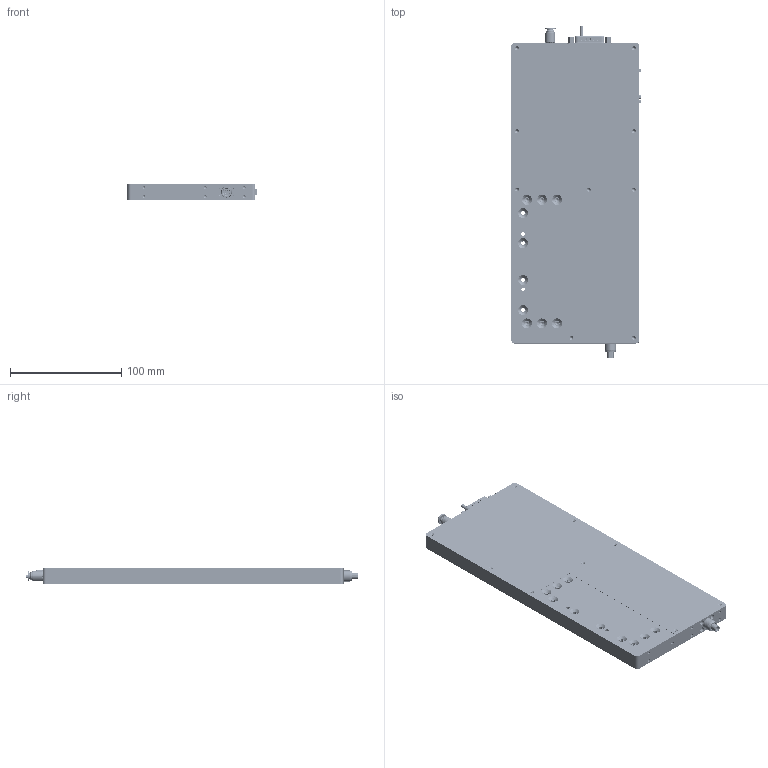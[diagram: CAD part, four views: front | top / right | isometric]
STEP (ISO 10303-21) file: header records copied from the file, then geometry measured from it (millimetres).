
FILE_DESCRIPTION (( 'STEP AP214' ), '1' );
FILE_NAME ('ZRAD-6-14-S30-000.STEP', '2023-05-08T08:39:27', ( 'XZOS' ), ( 'MS' ), 'SwSTEP 2.0', 'SolidWorks 2019', '' );
FILE_SCHEMA (( 'AUTOMOTIVE_DESIGN' ));
Length unit declared in the file: millimetre
Products named in the file (56): LD200-PCBA-棠掑喜; PCB蛌諉啣-001; M-5HL-4; ZRAD-6-14-S30-014; ZRAD-6-14-S30-015; FC-SPV202Z; ZRAD-6-15-S30-023; ZRAD-6-14-S30-020; ZRAD-6-14-S30-012; ァ奪-尨砩1; ZRAD-6-14-S30-016; pm-k25_igs; _ASPO3-10_BZ; ZRAD-6-14-S30-013; 奪繚-尨砩2; AWA6-50Z; 奪繚-尨砩3; ZRAD-6-14-S30-003; ZRAD-6-14-S30-018; 真空拾取器气路-000; 齬盄尨砩-010; M-3AU-4; POC4M5-S; GLIM13.5-123-1-隅赽; ZRAD-6-14-S30-005; ZRAD-6-14-S30-007; ZRAD-6-14-S30-010; MS-5AU-3; MP 30 NPN; ZRAD-6-14-S30-008; SP-01; ZRAD-6-14-S30-019; UDB26-PCB; 粟銅奪-尨砩; ZRAD-6-14-S30-011; ZRAD-6-14-S30-006; ZRAD-6-14-S30-001; ZRAD-6-14-S30-021; MS-5H-4; LD200-PCBA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
Assembly tree (72 placements, depth 3):
  ZRAD-6-14-S30-000
    ZRAD-6-14-S30-001
    ZRAD-6-14-S30-002
    ZRAD-6-14-S30-003
    ZRAD-6-14-S30-005
    ZRAD-6-14-S30-006
    ZRAD-6-14-S30-008
    ZRAD-6-14-S30-009
    ZRAD-6-14-S30-010
    ZRAD-6-14-S30-011
    ZRAD-6-14-S30-012
    ZRAD-6-14-S30-013
    ZRAD-6-14-S30-014
    ZRAD-6-14-S30-015
    ZRAD-6-14-S30-016
    ZRAD-6-14-S30-017
    ZRAD-6-14-S30-018
    ZRAD-6-14-S30-019
    ZRAD-6-14-S30-020
    GLIM13.5-123-1-雄赽
    AWA6-50Z
    aspo3-10_asmZ
      _ASPO3-10_BZ
      _M3X0_5AZ
    GLIM13.5-123-1-隅赽
    粟銅奪-尨砩
    UDB26-PCB
    aspo3-10_asmZ
      _ASPO3-10_BZ
      _M3X0_5AZ
    LD200-PCBA
    PCB蛌諉啣-001  x2
    LD200-PCBA-棠掑喜
    POC4M5-S
    MP 30 NPN
    ァ奪-尨砩1
    MS-5H-4  x2
    揹諳諉芛假蚾翐  x2
    齬盄尨砩-010
    ML5C2R100(9.5,19,0)-賑寢
    ML5C2R100(9.5,19,0-賑輸  x2
    MS-5AU-3
    真空拾取器气路-000
      ZRAD-6-14-S30-004
      SP-01  x3
      ZRAD-6-14-S30-007
      slp_05_s01
      M-5HL-4
      M-3AU-4  x4
      MS-5ALHU-3
      ZRAD-6-14-S30-021
      MS-5H-4
      ZRAD-6-14-S30-019
      ZRAD-6-14-S30-012
      ZRAD-6-15-S30-023
      BSLMM5  x2
    M-5HL-4
    M-3AU-4
    奪繚-尨砩2
    奪繚-尨砩3
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Bounding box: 116.09 x 298 x 14 mm (x, y, z)
Volume: 281749.3 mm3; surface area: 261164.2 mm2
Topology: 76 solids, 93 shells, 5616 faces, 14331 edges, 9028 vertices
Faces by surface type: plane 2548, cylinder 1930, cone 647, bspline 433, torus 34, sphere 24
Entity records: 159494 total; most frequent: CARTESIAN_POINT 41535, DIRECTION 23447, ORIENTED_EDGE 23438, EDGE_CURVE 11769, AXIS2_PLACEMENT_3D 8345, VERTEX_POINT 7517, VECTOR 6757, LINE 6757
